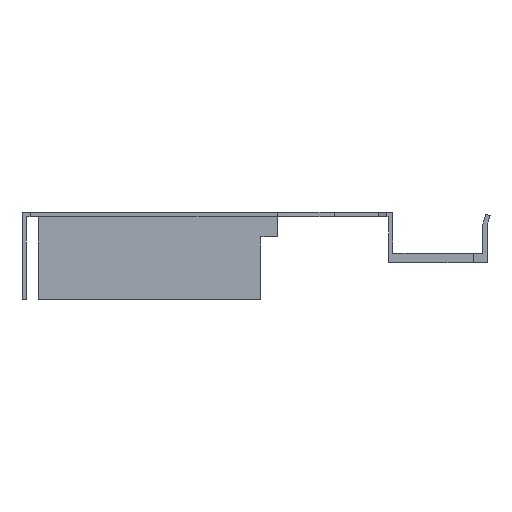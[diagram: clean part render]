
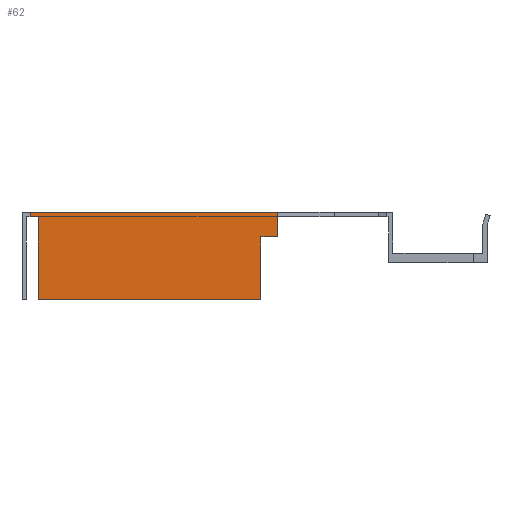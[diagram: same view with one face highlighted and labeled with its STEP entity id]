
A CAD part, left-side view. The second image highlights one B-rep face of the part: STEP entity #62.
In plain terms, the highlighted planar face has unit normal (-1, 0, 0).
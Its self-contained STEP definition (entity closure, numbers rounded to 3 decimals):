
#42 = VECTOR ( 'NONE', #403, 1000. ) ;
#43 = LINE ( 'NONE', #402, #42 ) ;
#62 = ADVANCED_FACE ( 'NONE', ( #1476 ), #1585, .T. ) ;
#248 = CARTESIAN_POINT ( 'NONE',  ( -917., 65., -8.5 ) ) ;
#249 = DIRECTION ( 'NONE',  ( 0., -1., 0. ) ) ;
#250 = CARTESIAN_POINT ( 'NONE',  ( -917., 24.2, -8.5 ) ) ;
#253 = DIRECTION ( 'NONE',  ( 0., 0., 1. ) ) ;
#254 = CARTESIAN_POINT ( 'NONE',  ( -917., 21.2, 0. ) ) ;
#255 = DIRECTION ( 'NONE',  ( 0., 0., -1. ) ) ;
#256 = CARTESIAN_POINT ( 'NONE',  ( -917., 24.2, 3. ) ) ;
#258 = CARTESIAN_POINT ( 'NONE',  ( -917., 65., 7.5 ) ) ;
#259 = DIRECTION ( 'NONE',  ( 0., 0., -1. ) ) ;
#260 = CARTESIAN_POINT ( 'NONE',  ( -917., 66.5, 6.7 ) ) ;
#261 = DIRECTION ( 'NONE',  ( 0., 0., 1. ) ) ;
#263 = DIRECTION ( 'NONE',  ( 0., -1., 0. ) ) ;
#402 = CARTESIAN_POINT ( 'NONE',  ( -917., 0.8, 6.7 ) ) ;
#403 = DIRECTION ( 'NONE',  ( 0., 1., 0. ) ) ;
#457 = CARTESIAN_POINT ( 'NONE',  ( -917., 0., 7.5 ) ) ;
#458 = DIRECTION ( 'NONE',  ( 0., -1., 0. ) ) ;
#544 = CARTESIAN_POINT ( 'NONE',  ( -917., 21.2, 3. ) ) ;
#545 = CARTESIAN_POINT ( 'NONE',  ( -917., 24.2, -8.5 ) ) ;
#546 = CARTESIAN_POINT ( 'NONE',  ( -917., 24.2, 3. ) ) ;
#553 = CARTESIAN_POINT ( 'NONE',  ( -917., 65., -8.5 ) ) ;
#577 = CARTESIAN_POINT ( 'NONE',  ( -917., 65., 6.7 ) ) ;
#586 = CARTESIAN_POINT ( 'NONE',  ( -917., 21.2, 7.5 ) ) ;
#626 = CARTESIAN_POINT ( 'NONE',  ( -917., 66.5, 6.7 ) ) ;
#630 = CARTESIAN_POINT ( 'NONE',  ( -917., 66.5, 7.5 ) ) ;
#667 = LINE ( 'NONE', #457, #668 ) ;
#668 = VECTOR ( 'NONE', #458, 1000. ) ;
#767 = EDGE_CURVE ( 'NONE', #1554, #1532, #1042, .T. ) ;
#769 = EDGE_CURVE ( 'NONE', #1532, #1535, #1051, .T. ) ;
#770 = EDGE_CURVE ( 'NONE', #1630, #1530, #1036, .T. ) ;
#772 = EDGE_CURVE ( 'NONE', #1621, #1554, #1032, .T. ) ;
#773 = EDGE_CURVE ( 'NONE', #1670, #1678, #1030, .T. ) ;
#774 = EDGE_CURVE ( 'NONE', #1535, #1530, #1039, .T. ) ;
#842 = EDGE_CURVE ( 'NONE', #1621, #1670, #43, .T. ) ;
#869 = EDGE_CURVE ( 'NONE', #1678, #1630, #667, .T. ) ;
#913 = AXIS2_PLACEMENT_3D ( 'NONE', #1582, #1574, #1573 ) ;
#1028 = VECTOR ( 'NONE', #263, 1000. ) ;
#1029 = VECTOR ( 'NONE', #261, 1000. ) ;
#1030 = LINE ( 'NONE', #260, #1029 ) ;
#1031 = VECTOR ( 'NONE', #259, 1000. ) ;
#1032 = LINE ( 'NONE', #258, #1031 ) ;
#1035 = VECTOR ( 'NONE', #255, 1000. ) ;
#1036 = LINE ( 'NONE', #254, #1035 ) ;
#1038 = VECTOR ( 'NONE', #253, 1000. ) ;
#1039 = LINE ( 'NONE', #256, #1028 ) ;
#1041 = VECTOR ( 'NONE', #249, 1000. ) ;
#1042 = LINE ( 'NONE', #248, #1041 ) ;
#1051 = LINE ( 'NONE', #250, #1038 ) ;
#1278 = ORIENTED_EDGE ( 'NONE', *, *, #869, .F. ) ;
#1279 = ORIENTED_EDGE ( 'NONE', *, *, #770, .F. ) ;
#1280 = ORIENTED_EDGE ( 'NONE', *, *, #774, .T. ) ;
#1281 = ORIENTED_EDGE ( 'NONE', *, *, #769, .T. ) ;
#1282 = ORIENTED_EDGE ( 'NONE', *, *, #767, .T. ) ;
#1283 = ORIENTED_EDGE ( 'NONE', *, *, #772, .T. ) ;
#1284 = ORIENTED_EDGE ( 'NONE', *, *, #842, .F. ) ;
#1285 = ORIENTED_EDGE ( 'NONE', *, *, #773, .F. ) ;
#1447 = EDGE_LOOP ( 'NONE', ( #1285, #1284, #1283, #1282, #1281, #1280, #1279, #1278 ) ) ;
#1476 = FACE_OUTER_BOUND ( 'NONE', #1447, .T. ) ;
#1530 = VERTEX_POINT ( 'NONE', #544 ) ;
#1532 = VERTEX_POINT ( 'NONE', #545 ) ;
#1535 = VERTEX_POINT ( 'NONE', #546 ) ;
#1554 = VERTEX_POINT ( 'NONE', #553 ) ;
#1573 = DIRECTION ( 'NONE',  ( 0., 0., 1. ) ) ;
#1574 = DIRECTION ( 'NONE',  ( -1., 0., 0. ) ) ;
#1582 = CARTESIAN_POINT ( 'NONE',  ( -917., -16.5, 0. ) ) ;
#1585 = PLANE ( 'NONE',  #913 ) ;
#1621 = VERTEX_POINT ( 'NONE', #577 ) ;
#1630 = VERTEX_POINT ( 'NONE', #586 ) ;
#1670 = VERTEX_POINT ( 'NONE', #626 ) ;
#1678 = VERTEX_POINT ( 'NONE', #630 ) ;
